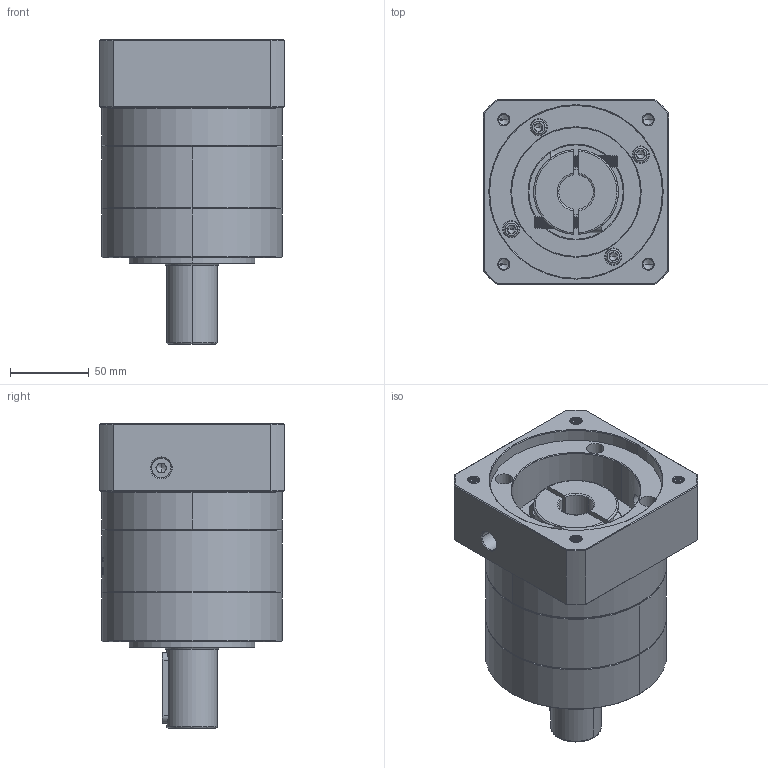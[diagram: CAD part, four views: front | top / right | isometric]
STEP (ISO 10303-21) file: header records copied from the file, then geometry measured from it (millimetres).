
FILE_DESCRIPTION (( 'STEP AP214' ), '1' );
FILE_NAME ('ZE120A-D32-L1-22-110-130-M8.step', '2023-03-09T06:27:03', ( '' ), ( '' ), 'SwSTEP 2.0', 'SolidWorks 2016', '' );
FILE_SCHEMA (( 'AUTOMOTIVE_DESIGN' ));
Length unit declared in the file: millimetre
Products named in the file (1): ZE120A-D32-L1-22-110-130-M8
Bounding box: 118 x 118 x 193.5 mm (x, y, z)
Volume: 1399818 mm3; surface area: 161736.8 mm2
Topology: 6 solids, 6 shells, 2044 faces, 5408 edges, 3461 vertices
Faces by surface type: plane 836, cylinder 520, bspline 353, cone 335
Entity records: 119224 total; most frequent: CARTESIAN_POINT 50718, ORIENTED_EDGE 10740, DIRECTION 8082, EDGE_CURVE 5370, VERTEX_POINT 3461, VECTOR 2812, LINE 2812, AXIS2_PLACEMENT_3D 2635
